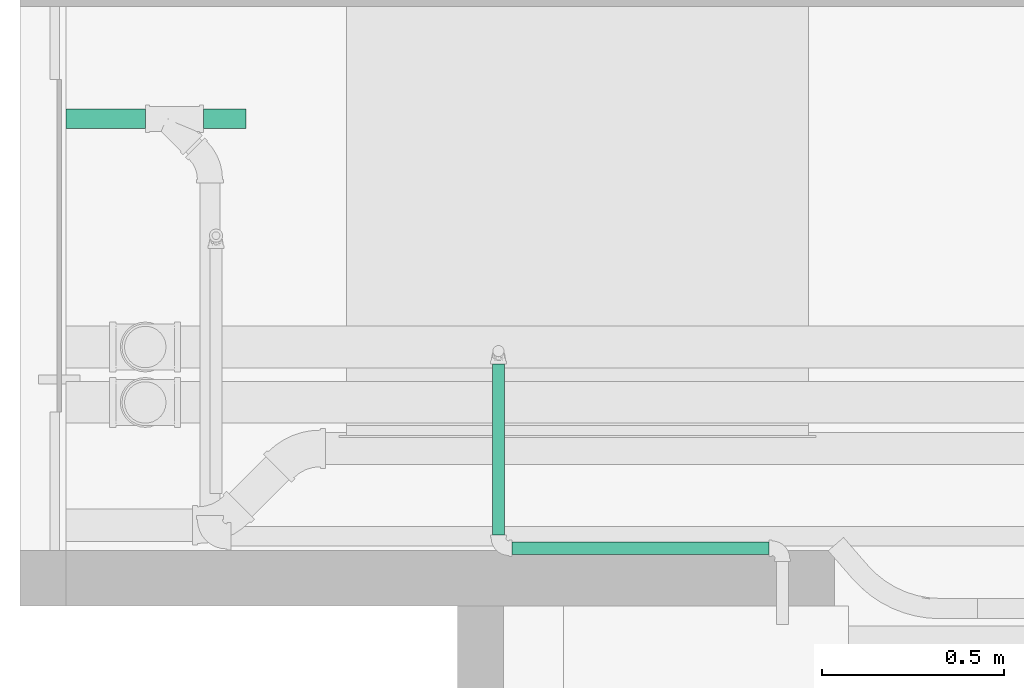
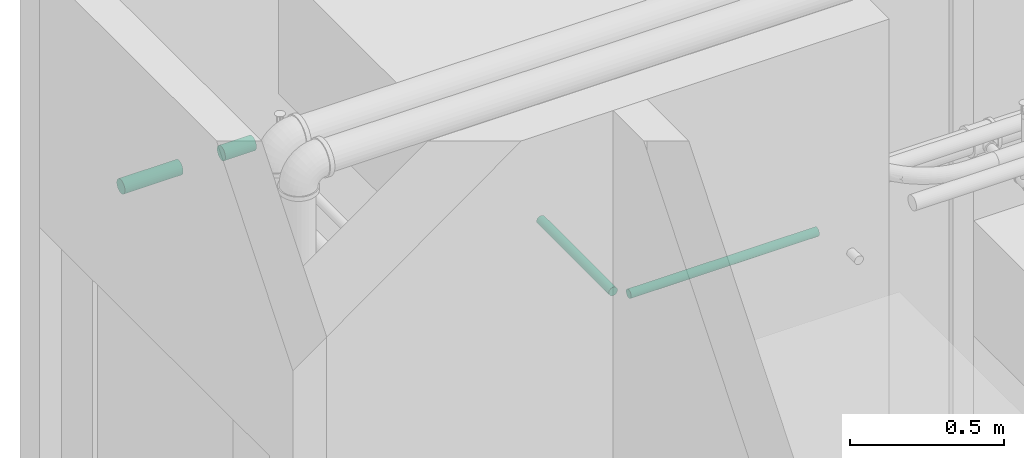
# One storey, part 54 of 108: 4 pipe segments.
"""IFC4 building model written with IfcOpenShell, lengths in feet."""

from ifc_helpers import new_model, entity, si_unit, converted_unit, derived_unit, direction, frame, frame_2d, origin, origin_2d_with_axis, place, context, subcontext, project, spatial, circle, extrude, type_object, element, save


model = new_model("IFC4")

# Units and contexts
model_context = context("Model", 3, precision=0.0001, world=origin(), true_north=direction((6.12303176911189e-17, 1.0)))
body_context = subcontext(model_context, "Body", "Model", "MODEL_VIEW")
ifc_project = project(units=[converted_unit("LENGTHUNIT", "FOOT", entity("IfcRatioMeasure", 0.3048), si_unit("LENGTHUNIT", "METRE"), dimensions=[1, 0, 0, 0, 0, 0, 0]), converted_unit("AREAUNIT", "SQUARE FOOT", entity("IfcRatioMeasure", 0.09290304), si_unit("AREAUNIT", "SQUARE_METRE"), dimensions=[2, 0, 0, 0, 0, 0, 0]), converted_unit("VOLUMEUNIT", "CUBIC FOOT", entity("IfcRatioMeasure", 0.028316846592), si_unit("VOLUMEUNIT", "CUBIC_METRE"), dimensions=[3, 0, 0, 0, 0, 0, 0]), converted_unit("PLANEANGLEUNIT", "DEGREE", entity("IfcRatioMeasure", 0.0174532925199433), si_unit("PLANEANGLEUNIT", "RADIAN"), dimensions=[0, 0, 0, 0, 0, 0, 0]), si_unit("MASSUNIT", "GRAM", prefix="KILO"), derived_unit("MASSDENSITYUNIT", [(si_unit("MASSUNIT", "GRAM", prefix="KILO"), 1), (si_unit("LENGTHUNIT", "METRE"), -3)]), si_unit("TIMEUNIT", "SECOND"), si_unit("FREQUENCYUNIT", "HERTZ"), si_unit("THERMODYNAMICTEMPERATUREUNIT", "DEGREE_CELSIUS"), derived_unit("THERMALTRANSMITTANCEUNIT", [(si_unit("MASSUNIT", "GRAM", prefix="KILO"), 1), (si_unit("THERMODYNAMICTEMPERATUREUNIT", "KELVIN"), -1), (si_unit("TIMEUNIT", "SECOND"), -3)]), derived_unit("VOLUMETRICFLOWRATEUNIT", [(si_unit("LENGTHUNIT", "METRE"), 3), (si_unit("TIMEUNIT", "SECOND"), -1)]), si_unit("ELECTRICCURRENTUNIT", "AMPERE"), si_unit("ELECTRICVOLTAGEUNIT", "VOLT"), si_unit("POWERUNIT", "WATT"), si_unit("FORCEUNIT", "NEWTON"), si_unit("ILLUMINANCEUNIT", "LUX"), si_unit("LUMINOUSFLUXUNIT", "LUMEN"), si_unit("LUMINOUSINTENSITYUNIT", "CANDELA"), derived_unit("USERDEFINED", [(si_unit("MASSUNIT", "GRAM", prefix="KILO"), -1), (si_unit("LENGTHUNIT", "METRE"), -2), (si_unit("TIMEUNIT", "SECOND"), 3), (si_unit("LUMINOUSFLUXUNIT", "LUMEN"), 1)]), derived_unit("LINEARVELOCITYUNIT", [(si_unit("LENGTHUNIT", "METRE"), 1), (si_unit("TIMEUNIT", "SECOND"), -1)]), si_unit("PRESSUREUNIT", "PASCAL"), derived_unit("USERDEFINED", [(si_unit("LENGTHUNIT", "METRE"), -2), (si_unit("MASSUNIT", "GRAM", prefix="KILO"), 1), (si_unit("TIMEUNIT", "SECOND"), -2)])], contexts=[model_context])

# Site, building, storey
site_placement = place(None, origin())
site = spatial("IfcSite", under=ifc_project, at=site_placement, Name="Default", CompositionType="ELEMENT")
building_placement = place(site_placement, origin())
building = spatial("IfcBuilding", under=site, at=building_placement, CompositionType="ELEMENT")
storey_placement = place(building_placement, frame((0.0, 0.0, 168.0)))
storey = spatial("IfcBuildingStorey", under=building, at=storey_placement, Name="Level 15", CompositionType="ELEMENT", Elevation=168.0)

# Pipe segments
pipe_segment_type_1 = type_object("IfcPipeSegmentType", Name="Pipe Types:Fire Prot Sched 10 Main", PredefinedType="NOTDEFINED")
pipe_segment_1_placement = place(storey_placement, frame((-55.8315874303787, 10.4356584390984, 9.14830783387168)))
element("IfcPipeSegment", 1, at=pipe_segment_1_placement, inside=storey, type_object=pipe_segment_type_1, Name="Pipe Types:Fire Prot Sched 10 Main", ObjectType="Pipe Types:Fire Prot Sched 10 Main", PredefinedType="NOTDEFINED", context=body_context, shape_type="SweptSolid", body=[
    extrude(circle(Radius=0.0547916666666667, at=frame_2d((0.0, -2.8421709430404e-14), x_axis=(1.0, 0.0))), frame((0.0600254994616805, 0.0, 0.0600254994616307), z_axis=(0.0, 1.0, 0.0), x_axis=(1.0, 0.0, 0.0)), (0.0, 0.0, 1.0), 1.54099413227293),
])
pipe_segment_2_placement = place(storey_placement, frame((-55.6503509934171, 10.2544220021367, 9.14830783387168)))
element("IfcPipeSegment", 2, at=pipe_segment_2_placement, inside=storey, type_object=pipe_segment_type_1, Name="Pipe Types:Fire Prot Sched 10 Main", ObjectType="Pipe Types:Fire Prot Sched 10 Main", PredefinedType="NOTDEFINED", context=body_context, shape_type="SweptSolid", body=[
    extrude(circle(Radius=0.0547916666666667, at=frame_2d((0.0, -2.8421709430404e-14), x_axis=(1.0, 0.0))), frame((0.0, 0.0600254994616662, 0.0600254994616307), z_axis=(1.0, 0.0, 0.0), x_axis=(0.0, -1.0, 0.0)), (0.0, 0.0, 1.0), 2.32007812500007),
])
pipe_segment_type_2 = type_object("IfcPipeSegmentType", Name="Pipe Types:Hydronic", PredefinedType="NOTDEFINED")
pipe_segment_3_placement = place(storey_placement, frame((-58.4338791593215, 14.0943596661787, 9.572891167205)))
element("IfcPipeSegment", 3, at=pipe_segment_3_placement, inside=storey, type_object=pipe_segment_type_2, Name="Pipe Types:Hydronic", ObjectType="Pipe Types:Hydronic", PredefinedType="NOTDEFINED", context=body_context, shape_type="SweptSolid", body=[
    extrude(circle(Radius=0.0885416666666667, at=origin_2d_with_axis()), frame((0.0, 0.0937754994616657, 0.0937754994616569), z_axis=(1.0, 0.0, 0.0), x_axis=(0.0, -1.0, 0.0)), (0.0, 0.0, 1.0), 0.383983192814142),
])
pipe_segment_4_placement = place(storey_placement, frame((-59.6715067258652, 14.0943596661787, 9.572891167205)))
element("IfcPipeSegment", 4, at=pipe_segment_4_placement, inside=storey, type_object=pipe_segment_type_2, Name="Pipe Types:Hydronic", ObjectType="Pipe Types:Hydronic", PredefinedType="NOTDEFINED", context=body_context, shape_type="SweptSolid", body=[
    extrude(circle(Radius=0.0885416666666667, at=frame_2d((-3.01980662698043e-14, 0.0), x_axis=(1.0, 0.0))), frame((0.0, 0.0937754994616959, 0.0937754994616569), z_axis=(1.0, 0.0, 0.0), x_axis=(0.0, 1.0, 0.0)), (0.0, 0.0, 1.0), 0.717344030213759),
])

save(model, "model.ifc")
